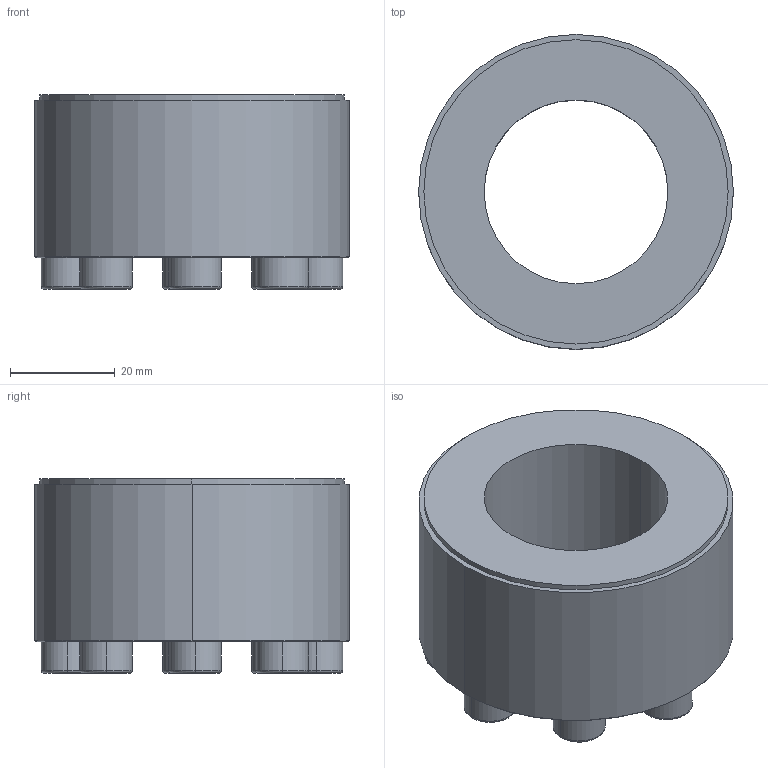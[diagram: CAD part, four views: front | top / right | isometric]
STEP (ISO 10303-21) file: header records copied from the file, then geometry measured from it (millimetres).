
FILE_DESCRIPTION (( 'STEP AP203' ), '1' );
FILE_NAME ('PL-B 35-60.STEP', '2021-10-22T07:47:26', ( '' ), ( '' ), 'SwSTEP 2.0', 'SolidWorks 2018', '' );
FILE_SCHEMA (( 'CONFIG_CONTROL_DESIGN' ));
Length unit declared in the file: millimetre
Products named in the file (1): PL-B 35-60
Bounding box: 60 x 60 x 37 mm (x, y, z)
Volume: 60870.7 mm3; surface area: 14810.2 mm2
Topology: 1 solids, 1 shells, 109 faces, 250 edges, 160 vertices
Faces by surface type: plane 67, cylinder 22, torus 16, cone 4
Entity records: 3145 total; most frequent: DIRECTION 550, CARTESIAN_POINT 520, ORIENTED_EDGE 500, EDGE_CURVE 250, AXIS2_PLACEMENT_3D 190, LINE 170, VECTOR 170, VERTEX_POINT 160
